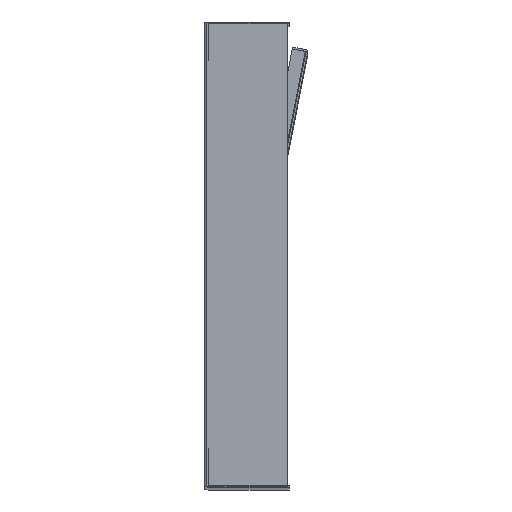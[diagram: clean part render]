
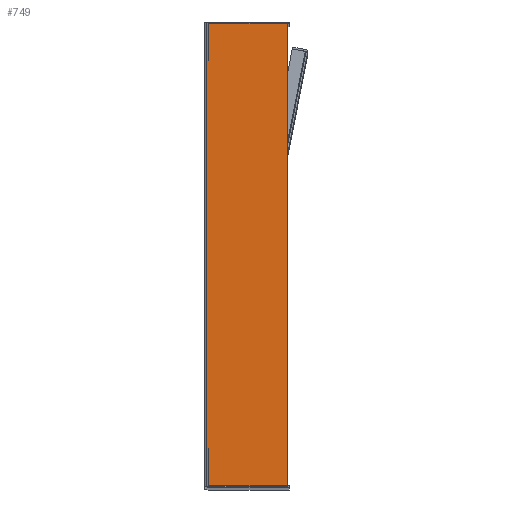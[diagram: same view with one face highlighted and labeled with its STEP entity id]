
A CAD part, top view. The second image highlights one B-rep face of the part: STEP entity #749.
In plain terms, the highlighted planar face has unit normal (0, 0, 1) as drawn and (0, -1, 0) by its records, which use the part's own axes.
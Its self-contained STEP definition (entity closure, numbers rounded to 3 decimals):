
#191 = DIRECTION ( 'NONE',  ( 0., 0., -1. ) ) ;
#193 = VERTEX_POINT ( 'NONE', #7374 ) ;
#222 = DIRECTION ( 'NONE',  ( 0., -1., 0. ) ) ;
#407 = CARTESIAN_POINT ( 'NONE',  ( 88., -2., 0. ) ) ;
#528 = VECTOR ( 'NONE', #596, 1000. ) ;
#564 = EDGE_CURVE ( 'NONE', #2884, #3368, #3043, .T. ) ;
#596 = DIRECTION ( 'NONE',  ( 1., 0., 0. ) ) ;
#747 = CARTESIAN_POINT ( 'NONE',  ( 88., -2., -502. ) ) ;
#749 = ADVANCED_FACE ( 'NONE', ( #4658 ), #7392, .T. ) ;
#775 = EDGE_CURVE ( 'NONE', #2884, #193, #1463, .T. ) ;
#787 = DIRECTION ( 'NONE',  ( -1., 0., 0. ) ) ;
#1450 = VERTEX_POINT ( 'NONE', #747 ) ;
#1463 = LINE ( 'NONE', #4506, #5777 ) ;
#1690 = LINE ( 'NONE', #407, #3666 ) ;
#2182 = ORIENTED_EDGE ( 'NONE', *, *, #775, .T. ) ;
#2277 = EDGE_CURVE ( 'NONE', #3368, #1450, #1690, .T. ) ;
#2884 = VERTEX_POINT ( 'NONE', #4077 ) ;
#2988 = CARTESIAN_POINT ( 'NONE',  ( 0., -2., 0. ) ) ;
#3043 = LINE ( 'NONE', #2988, #528 ) ;
#3302 = EDGE_LOOP ( 'NONE', ( #4082, #2182, #3838, #5827 ) ) ;
#3368 = VERTEX_POINT ( 'NONE', #5186 ) ;
#3439 = VECTOR ( 'NONE', #787, 1000. ) ;
#3666 = VECTOR ( 'NONE', #7477, 1000. ) ;
#3791 = DIRECTION ( 'NONE',  ( 0., 0., -1. ) ) ;
#3832 = CARTESIAN_POINT ( 'NONE',  ( 0., -2., -502. ) ) ;
#3838 = ORIENTED_EDGE ( 'NONE', *, *, #5533, .F. ) ;
#4012 = AXIS2_PLACEMENT_3D ( 'NONE', #4483, #222, #3791 ) ;
#4077 = CARTESIAN_POINT ( 'NONE',  ( 0.737, -2., 0. ) ) ;
#4082 = ORIENTED_EDGE ( 'NONE', *, *, #564, .F. ) ;
#4483 = CARTESIAN_POINT ( 'NONE',  ( 0., -2., 0. ) ) ;
#4506 = CARTESIAN_POINT ( 'NONE',  ( 0.737, -2., 0. ) ) ;
#4658 = FACE_OUTER_BOUND ( 'NONE', #3302, .T. ) ;
#5186 = CARTESIAN_POINT ( 'NONE',  ( 88., -2., 0. ) ) ;
#5533 = EDGE_CURVE ( 'NONE', #1450, #193, #7741, .T. ) ;
#5777 = VECTOR ( 'NONE', #191, 1000. ) ;
#5827 = ORIENTED_EDGE ( 'NONE', *, *, #2277, .F. ) ;
#7374 = CARTESIAN_POINT ( 'NONE',  ( 0.737, -2., -502. ) ) ;
#7392 = PLANE ( 'NONE',  #4012 ) ;
#7477 = DIRECTION ( 'NONE',  ( 0., 0., -1. ) ) ;
#7741 = LINE ( 'NONE', #3832, #3439 ) ;
